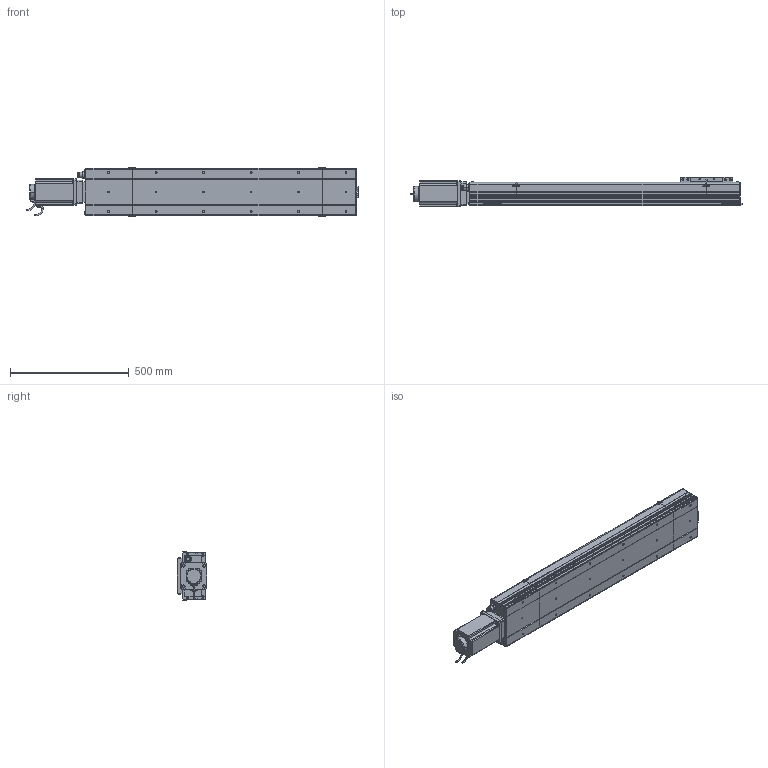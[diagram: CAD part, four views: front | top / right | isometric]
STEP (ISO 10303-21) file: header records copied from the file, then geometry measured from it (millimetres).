
FILE_DESCRIPTION (( 'STEP AP214' ), '1' );
FILE_NAME ('D20 CSH MD S800.STEP', '2010-06-30T08:10:00', ( 'Conseil Régional Haute-Normandie' ), ( 'Conseil Régional Haute-Normandie' ), 'SwSTEP 2.0', 'SolidWorks 2010', '' );
FILE_SCHEMA (( 'AUTOMOTIVE_DESIGN' ));
Length unit declared in the file: millimetre
Products named in the file (28): Support Chariot D20_Default; Chariot D20_Default; Conecteur_Default; Conecteur2_Default; clavette; codeur 110BLDC170A-630x; corps 110BLDC170A-630x; avant 110BLDC170A-630x; Moteur motionking 110BLDC170A-640x; Glissiere_Default; vis M5 L15_Default; D20 CSH MD S800; Couvercle_Default; Corp Tail D20_Default; Tail D20_Default; Corp D20 S800_Default; Plaque De Serrage D20_Default; Plaque de Bout Tail D20_Default; Head D20 MD_Default; Couvercle S800_Default; Corp S800_Default; Plaque de Bout Head D20_Default; Couvercle Head_Default; Corp Head D20_Default; vis M8 L15_Default; Plaque racord D20_Default; Plaque De Serrage Head D20_Default
Assembly tree (53 placements, depth 4):
  D20 CSH MD S800
    Tail D20_Default
      vis M5 L15_Default  x6
      Plaque de Bout Tail D20_Default
      Plaque De Serrage D20_Default
      Couvercle_Default
      Corp Tail D20_Default
    Chariot D20_Default
      Chariot D20_Default
      vis M5 L15_Default  x8
      Glissiere_Default
      Support Chariot D20_Default
    Head D20 MD_Default
      Plaque De Serrage Head D20_Default
      vis M5 L15_Default  x10
      Couvercle Head_Default
      Plaque racord D20_Default
      Moteur motionking 110BLDC170A-640x
        avant 110BLDC170A-630x
        codeur 110BLDC170A-630x
        Conecteur2_Default
        Conecteur_Default
        corps 110BLDC170A-630x
        clavette
      vis M8 L15_Default  x4
      Corp Head D20_Default
      Plaque de Bout Head D20_Default
    Corp D20 S800_Default
      Couvercle S800_Default
      Corp S800_Default
Bounding box: 1399 x 125.5 x 206 mm (x, y, z)
Volume: 10232325.1 mm3; surface area: 1806628.4 mm2
Topology: 90 solids, 90 shells, 3403 faces, 8573 edges, 5601 vertices
Faces by surface type: plane 1938, bspline 758, cylinder 569, torus 79, cone 59
Entity records: 152619 total; most frequent: CARTESIAN_POINT 79298, ORIENTED_EDGE 14542, DIRECTION 10835, EDGE_CURVE 7271, VERTEX_POINT 4821, VECTOR 4775, LINE 4775, EDGE_LOOP 3084
